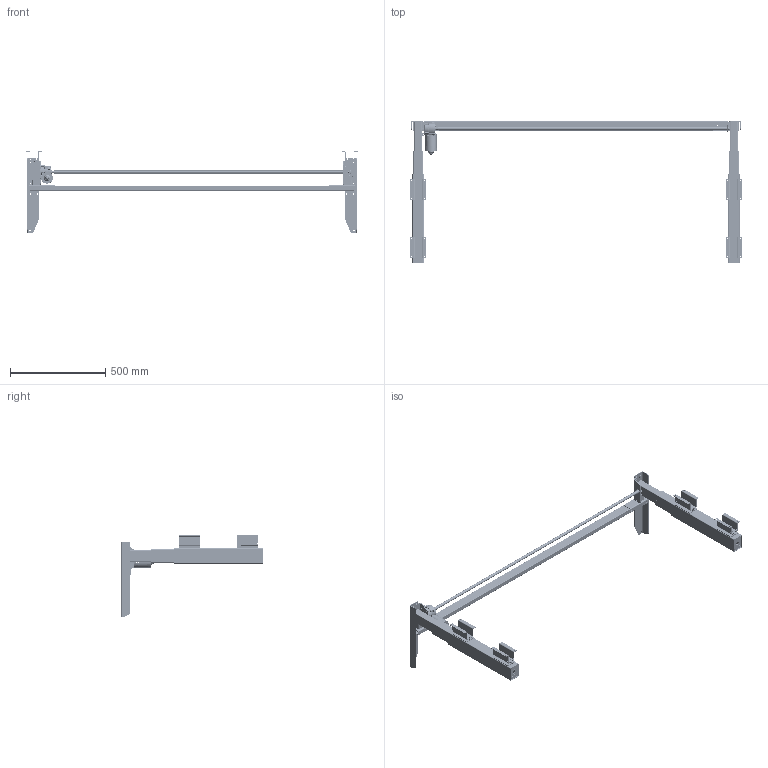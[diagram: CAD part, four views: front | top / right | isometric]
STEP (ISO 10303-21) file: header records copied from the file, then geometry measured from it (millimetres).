
FILE_DESCRIPTION (( 'STEP AP214' ), '1' );
FILE_NAME ('Tech-draw_501-39_XX172.STEP', '2024-09-11T10:52:52', ( '' ), ( '' ), 'SwSTEP 2.0', 'SolidWorks 2023', '' );
FILE_SCHEMA (( 'AUTOMOTIVE_DESIGN' ));
Length unit declared in the file: millimetre
Products named in the file (106): 361540; 161160_Shell view; 345930; 144260_172; 333180; 336230.; 359090; 134770; 346830; 322990; 321840; 134750; 346640; 341000_lower; 321190; 341060; 346210_White; 333190; 325430; 332180_rev1; 321760; 600470; 321150; Tech-draw_501-39_XX172; 341070; 311580; 341800; 328870; 342310_silver; 333320; 135010; 361560; 346790; 315360_Ingen kontaktarm; 361570; 346330_White; 331020; 321260; 361550; 160630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
Assembly tree (306 placements, depth 7):
  Tech-draw_501-39_XX172
    347910_172
    144260_172
      347920_172
      340560
      341220
    161150_Shell view
      361530
      361570  x2
      160630  x2
        361550
        361560
      160590_Shell view
        342310  x8
        341800  x10
        341800_silver  x6
        346910
        356120
        160560
          361520
          356850
        160580
          356130
          346640
          346330_White
          346200  x2
          346190_White
          345000
        142910_shell view
          346140
          600470
          320130
          142920_Shell view
            142800_rubber direction a
              321180
              321140.
            321190
            321840
            335380
            134750
              336230.
              340430
            321260  x2
            135010
              339870
            346890
            335900_Assembly  x3
            341330
          321150
          301890
          315360_Ingen kontaktarm
          325430
          311580  x3
          333420  x2
          321840
          142850_shell view
            346830
            346840
          346790  x2
          346800
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Bounding box: 1733.9 x 742.65 x 426.4 mm (x, y, z)
Volume: 2754394.6 mm3; surface area: 2884688.5 mm2
Topology: 288 solids, 288 shells, 13237 faces, 34662 edges, 22759 vertices
Faces by surface type: plane 6443, cylinder 4726, bspline 1321, cone 388, torus 316, sphere 43
Full cylindrical faces by diameter (mm): 1.2 x2, 1.5 x1, 1.8 x1, 1.9 x3, 2 x12, 2.2 x1, 2.3 x1, 2.4 x489, 2.5 x4, 2.9 x2, 3 x41, 3.1 x2, 3.2 x2, 3.3 x10, 3.5 x2, 3.6 x1, 4 x28, 4.1 x1, 4.2 x6, 4.3 x1, 4.5 x6, 4.6 x4, 4.95 x122, 4.98 x1, 5 x55, 5.05 x4, 5.2 x1, 5.5 x18, 5.6 x2, 5.7 x1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
Entity records: 316096 total; most frequent: CARTESIAN_POINT 137229, ORIENTED_EDGE 39234, DIRECTION 31821, EDGE_CURVE 19617, VERTEX_POINT 12995, AXIS2_PLACEMENT_3D 11285, LINE 9251, VECTOR 9251
